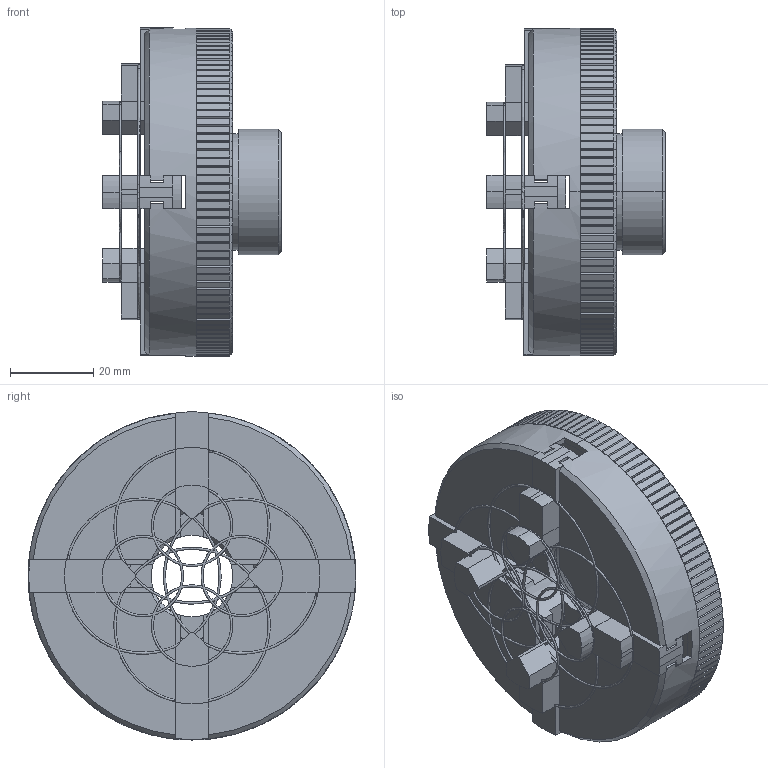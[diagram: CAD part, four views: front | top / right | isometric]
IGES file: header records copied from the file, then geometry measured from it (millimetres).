
Start section: Comment
Global section: file name: 1078.igs; native system:  By Spatial Corp.; preprocessor: XPlus PS/IGES 3.0; author: sherline; organization: Title; date: 20210512.173012; units: inch
Bounding box: 42.93 x 78.74 x 78.8 mm (x, y, z)
Volume: 85440 mm3; surface area: 45132.1 mm2
Topology: 6 solids, 6 shells, 882 faces, 2514 edges, 1634 vertices
Faces by surface type: plane 502, cylinder 256, cone 92, torus 32
